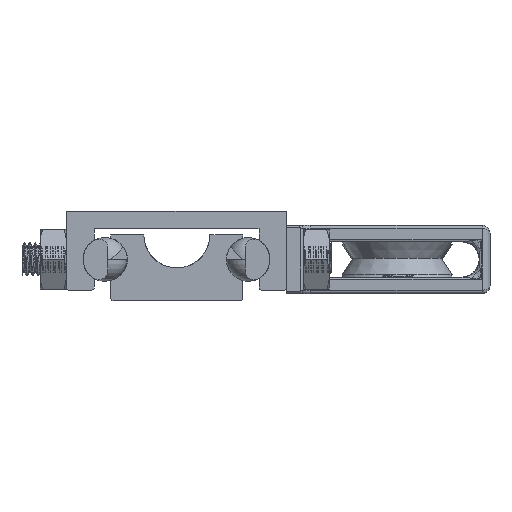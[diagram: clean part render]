
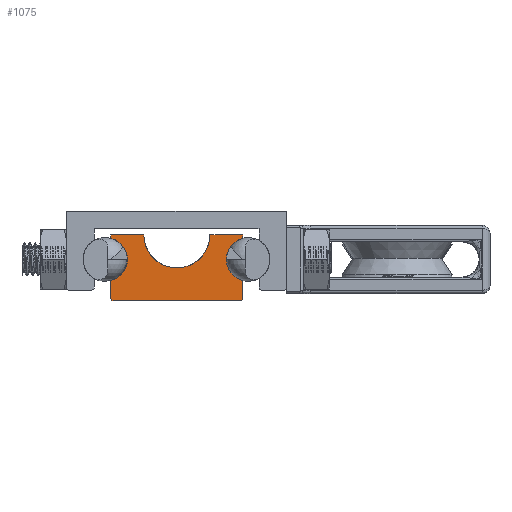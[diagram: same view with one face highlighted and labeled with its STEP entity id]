
A CAD part, front view. The second image highlights one B-rep face of the part: STEP entity #1075.
In plain terms, the highlighted planar face has unit normal (0, -1, 0) as drawn and (0, 1, 0) by its records, which use the part's own axes.
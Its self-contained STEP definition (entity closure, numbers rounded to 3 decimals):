
#51 = DIRECTION ( 'NONE',  ( 0., 0., -1. ) ) ;
#275 = CIRCLE ( 'NONE', #8269, 1.984 ) ;
#759 = CARTESIAN_POINT ( 'NONE',  ( 6., 304.8, 5.703 ) ) ;
#1075 = ADVANCED_FACE ( 'NONE', ( #29953 ), #9277, .T. ) ;
#1217 = DIRECTION ( 'NONE',  ( 0., 0., 1. ) ) ;
#1392 = DIRECTION ( 'NONE',  ( 0., 0., 1. ) ) ;
#1702 = LINE ( 'NONE', #39701, #32247 ) ;
#2171 = DIRECTION ( 'NONE',  ( 0., 1., 0. ) ) ;
#2272 = DIRECTION ( 'NONE',  ( 0., 0., 1. ) ) ;
#2327 = DIRECTION ( 'NONE',  ( 0., 0., 1. ) ) ;
#3043 = ORIENTED_EDGE ( 'NONE', *, *, #12928, .F. ) ;
#3075 = AXIS2_PLACEMENT_3D ( 'NONE', #36787, #44304, #33814 ) ;
#3193 = CARTESIAN_POINT ( 'NONE',  ( -6., 304.8, 1.854 ) ) ;
#3242 = LINE ( 'NONE', #13015, #35232 ) ;
#3903 = CARTESIAN_POINT ( 'NONE',  ( 6., 304.8, 0.2 ) ) ;
#4259 = CARTESIAN_POINT ( 'NONE',  ( 3., 304.8, 6. ) ) ;
#4824 = CARTESIAN_POINT ( 'NONE',  ( -6., 304.8, 5.703 ) ) ;
#5117 = DIRECTION ( 'NONE',  ( 0., 0., -1. ) ) ;
#5338 = DIRECTION ( 'NONE',  ( 0., 1., 0. ) ) ;
#6302 = EDGE_CURVE ( 'NONE', #41894, #44782, #26262, .T. ) ;
#6464 = VERTEX_POINT ( 'NONE', #3193 ) ;
#6467 = LINE ( 'NONE', #759, #41661 ) ;
#7321 = ORIENTED_EDGE ( 'NONE', *, *, #22331, .T. ) ;
#8269 = AXIS2_PLACEMENT_3D ( 'NONE', #11865, #42350, #1392 ) ;
#9189 = EDGE_CURVE ( 'NONE', #21631, #12217, #37126, .T. ) ;
#9264 = CARTESIAN_POINT ( 'NONE',  ( -3., 304.8, 6. ) ) ;
#9277 = PLANE ( 'NONE',  #3075 ) ;
#10169 = VECTOR ( 'NONE', #15293, 1000. ) ;
#11595 = DIRECTION ( 'NONE',  ( -1., 0., 0. ) ) ;
#11865 = CARTESIAN_POINT ( 'NONE',  ( -6.484, 304.8, 3.778 ) ) ;
#12217 = VERTEX_POINT ( 'NONE', #4824 ) ;
#12410 = CIRCLE ( 'NONE', #20382, 3. ) ;
#12669 = VERTEX_POINT ( 'NONE', #25270 ) ;
#12928 = EDGE_CURVE ( 'NONE', #43176, #21631, #43507, .T. ) ;
#13015 = CARTESIAN_POINT ( 'NONE',  ( -6., 304.8, 0. ) ) ;
#14263 = AXIS2_PLACEMENT_3D ( 'NONE', #43033, #25701, #35952 ) ;
#15293 = DIRECTION ( 'NONE',  ( -1., 0., 0. ) ) ;
#16021 = CARTESIAN_POINT ( 'NONE',  ( 0., 304.8, 6. ) ) ;
#18884 = CARTESIAN_POINT ( 'NONE',  ( 6., 304.8, 1.854 ) ) ;
#19135 = AXIS2_PLACEMENT_3D ( 'NONE', #22964, #34079, #2272 ) ;
#20137 = CARTESIAN_POINT ( 'NONE',  ( 5.8, 304.8, 0. ) ) ;
#20382 = AXIS2_PLACEMENT_3D ( 'NONE', #16021, #5338, #43563 ) ;
#20510 = DIRECTION ( 'NONE',  ( 1., 0., 0. ) ) ;
#20686 = ORIENTED_EDGE ( 'NONE', *, *, #29599, .F. ) ;
#21226 = CARTESIAN_POINT ( 'NONE',  ( -6., 304.8, 6. ) ) ;
#21282 = CIRCLE ( 'NONE', #19135, 0.2 ) ;
#21631 = VERTEX_POINT ( 'NONE', #21226 ) ;
#22064 = EDGE_CURVE ( 'NONE', #44782, #22843, #6467, .T. ) ;
#22329 = CARTESIAN_POINT ( 'NONE',  ( -3., 304.8, 6. ) ) ;
#22331 = EDGE_CURVE ( 'NONE', #34129, #12669, #21282, .T. ) ;
#22697 = ORIENTED_EDGE ( 'NONE', *, *, #39610, .F. ) ;
#22843 = VERTEX_POINT ( 'NONE', #28668 ) ;
#22964 = CARTESIAN_POINT ( 'NONE',  ( -5.8, 304.8, 0.2 ) ) ;
#23822 = ORIENTED_EDGE ( 'NONE', *, *, #33714, .F. ) ;
#24880 = EDGE_CURVE ( 'NONE', #22843, #38864, #31832, .T. ) ;
#24993 = CARTESIAN_POINT ( 'NONE',  ( 6., 304.8, 6. ) ) ;
#25270 = CARTESIAN_POINT ( 'NONE',  ( -6., 304.8, 0.2 ) ) ;
#25597 = EDGE_CURVE ( 'NONE', #6464, #12669, #1702, .T. ) ;
#25701 = DIRECTION ( 'NONE',  ( 0., 1., 0. ) ) ;
#25869 = ORIENTED_EDGE ( 'NONE', *, *, #29350, .T. ) ;
#26262 = CIRCLE ( 'NONE', #14263, 1.984 ) ;
#26423 = CIRCLE ( 'NONE', #36598, 0.2 ) ;
#26662 = VERTEX_POINT ( 'NONE', #3903 ) ;
#28668 = CARTESIAN_POINT ( 'NONE',  ( 6., 304.8, 6. ) ) ;
#29350 = EDGE_CURVE ( 'NONE', #26662, #31229, #26423, .T. ) ;
#29599 = EDGE_CURVE ( 'NONE', #12217, #6464, #275, .T. ) ;
#29953 = FACE_OUTER_BOUND ( 'NONE', #40062, .T. ) ;
#30340 = DIRECTION ( 'NONE',  ( 0., 0., 1. ) ) ;
#30563 = CARTESIAN_POINT ( 'NONE',  ( 5.8, 304.8, 0.2 ) ) ;
#30776 = VECTOR ( 'NONE', #11595, 1000. ) ;
#31200 = CARTESIAN_POINT ( 'NONE',  ( -6., 304.8, 6. ) ) ;
#31229 = VERTEX_POINT ( 'NONE', #20137 ) ;
#31832 = LINE ( 'NONE', #24993, #30776 ) ;
#32247 = VECTOR ( 'NONE', #5117, 1000. ) ;
#32595 = VECTOR ( 'NONE', #51, 1000. ) ;
#33472 = CARTESIAN_POINT ( 'NONE',  ( 6., 304.8, 0. ) ) ;
#33714 = EDGE_CURVE ( 'NONE', #34129, #31229, #3242, .T. ) ;
#33814 = DIRECTION ( 'NONE',  ( 0., 0., 1. ) ) ;
#34079 = DIRECTION ( 'NONE',  ( 0., 1., 0. ) ) ;
#34129 = VERTEX_POINT ( 'NONE', #44586 ) ;
#35232 = VECTOR ( 'NONE', #20510, 1000. ) ;
#35695 = VECTOR ( 'NONE', #2327, 1000. ) ;
#35952 = DIRECTION ( 'NONE',  ( 0., 0., 1. ) ) ;
#36397 = CARTESIAN_POINT ( 'NONE',  ( 6., 304.8, 5.703 ) ) ;
#36598 = AXIS2_PLACEMENT_3D ( 'NONE', #30563, #2171, #30340 ) ;
#36787 = CARTESIAN_POINT ( 'NONE',  ( 6.485, 304.8, 3.778 ) ) ;
#36885 = LINE ( 'NONE', #33472, #35695 ) ;
#37126 = LINE ( 'NONE', #31200, #32595 ) ;
#38819 = ORIENTED_EDGE ( 'NONE', *, *, #22064, .F. ) ;
#38864 = VERTEX_POINT ( 'NONE', #4259 ) ;
#39323 = ORIENTED_EDGE ( 'NONE', *, *, #24880, .F. ) ;
#39610 = EDGE_CURVE ( 'NONE', #38864, #43176, #12410, .T. ) ;
#39701 = CARTESIAN_POINT ( 'NONE',  ( -6., 304.8, 1.854 ) ) ;
#40062 = EDGE_LOOP ( 'NONE', ( #23822, #7321, #41650, #20686, #41844, #3043, #22697, #39323, #38819, #44902, #42338, #25869 ) ) ;
#41650 = ORIENTED_EDGE ( 'NONE', *, *, #25597, .F. ) ;
#41661 = VECTOR ( 'NONE', #1217, 1000. ) ;
#41844 = ORIENTED_EDGE ( 'NONE', *, *, #9189, .F. ) ;
#41894 = VERTEX_POINT ( 'NONE', #18884 ) ;
#42338 = ORIENTED_EDGE ( 'NONE', *, *, #43557, .F. ) ;
#42350 = DIRECTION ( 'NONE',  ( 0., 1., 0. ) ) ;
#43033 = CARTESIAN_POINT ( 'NONE',  ( 6.485, 304.8, 3.778 ) ) ;
#43176 = VERTEX_POINT ( 'NONE', #9264 ) ;
#43507 = LINE ( 'NONE', #22329, #10169 ) ;
#43557 = EDGE_CURVE ( 'NONE', #26662, #41894, #36885, .T. ) ;
#43563 = DIRECTION ( 'NONE',  ( 0., 0., 1. ) ) ;
#44304 = DIRECTION ( 'NONE',  ( 0., 1., 0. ) ) ;
#44586 = CARTESIAN_POINT ( 'NONE',  ( -5.8, 304.8, 0. ) ) ;
#44782 = VERTEX_POINT ( 'NONE', #36397 ) ;
#44902 = ORIENTED_EDGE ( 'NONE', *, *, #6302, .F. ) ;
